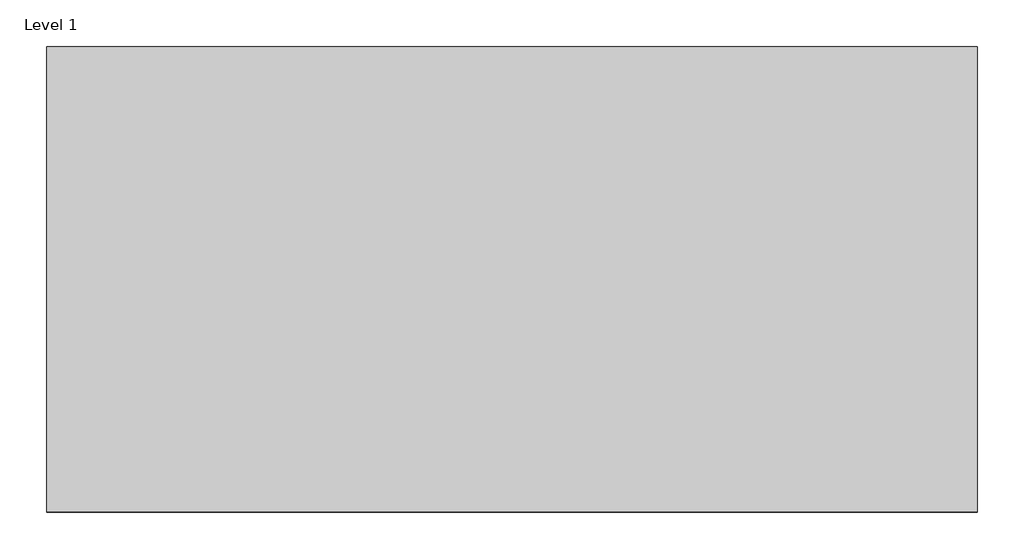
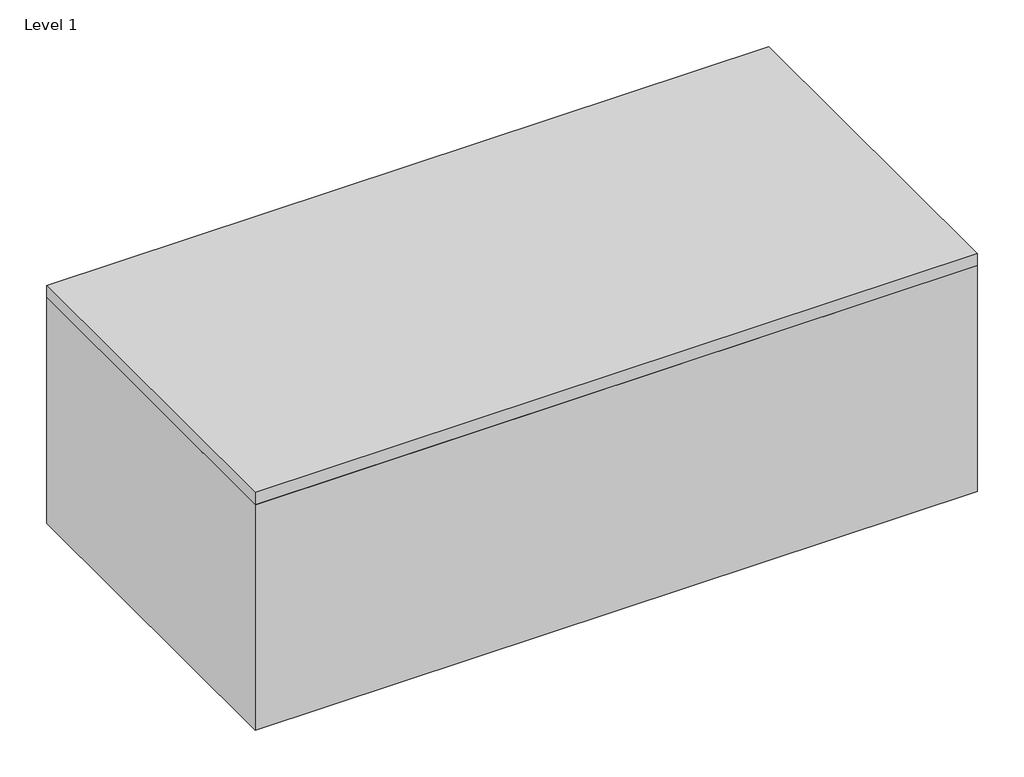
# One storey: 1 proxy.
"""IFC4 building model written with IfcOpenShell, lengths in millimetres."""

from ifc_helpers import new_model, si_unit, origin, place, context, project, spatial, transform, mapped, element, save
from components import generic_models_2b252b89

model = new_model("IFC4")

# Units and contexts
model_context = context("Model", 3, world=origin())
ifc_project = project(units=[si_unit("LENGTHUNIT", "METRE", prefix="MILLI")], contexts=[model_context])

# Site, building, storey
site = spatial("IfcSite", under=ifc_project)
building = spatial("IfcBuilding", under=site)
storey = spatial("IfcBuildingStorey", under=building, Name="Level 1", Elevation=0.0)

# Proxy
placement = place(None, origin())
generic_models_shape = generic_models_2b252b89(model_context)
element("IfcBuildingElementProxy", 1, Name="FOUNDATION^TABLE 3_42x84-1x3 STEEL BASE", ObjectType="FOUNDATION^TABLE 3_42x84-1x3 STEEL BASE", at=placement, inside=storey, context=model_context, shape_type="MappedRepresentation", body=[
    mapped(generic_models_shape, transform((0.0, -1066.8, 704.85), x_axis=(1.0, 0.0, 0.0), y_axis=(0.0, 0.0, 1.0), z_axis=(0.0, -1.0, 0.0))),
])

save(model, "model.ifc")
